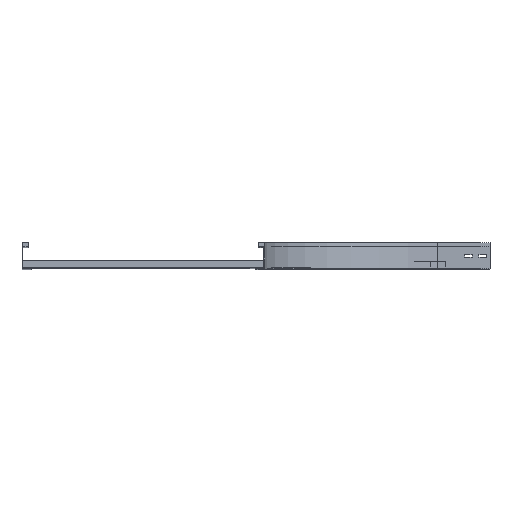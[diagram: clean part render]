
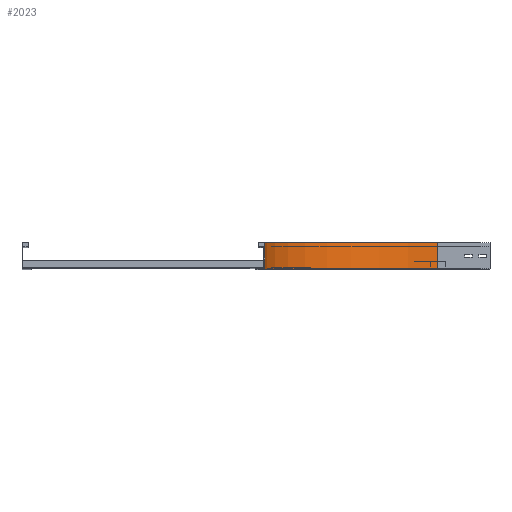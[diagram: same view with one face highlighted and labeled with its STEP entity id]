
A CAD part, top view. The second image highlights one B-rep face of the part: STEP entity #2023.
In plain terms, the highlighted cylindrical face has radius 500 mm (diameter 1000 mm), a partial arc.
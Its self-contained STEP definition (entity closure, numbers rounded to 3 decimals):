
#1 = CYLINDRICAL_SURFACE ( 'NONE', #1077, 500. ) ;
#14 = VERTEX_POINT ( 'NONE', #3169 ) ;
#17 = CARTESIAN_POINT ( 'NONE',  ( 0., 75., -150. ) ) ;
#170 = CIRCLE ( 'NONE', #3558, 500. ) ;
#472 = EDGE_CURVE ( 'NONE', #1035, #1938, #170, .T. ) ;
#556 = DIRECTION ( 'NONE',  ( 0., 1., 0. ) ) ;
#563 = ORIENTED_EDGE ( 'NONE', *, *, #472, .F. ) ;
#604 = LINE ( 'NONE', #1912, #3392 ) ;
#779 = VECTOR ( 'NONE', #556, 1000. ) ;
#835 = DIRECTION ( 'NONE',  ( -1., 0., 0. ) ) ;
#953 = CARTESIAN_POINT ( 'NONE',  ( 0., 0., -150. ) ) ;
#1017 = CIRCLE ( 'NONE', #1626, 500. ) ;
#1035 = VERTEX_POINT ( 'NONE', #17 ) ;
#1077 = AXIS2_PLACEMENT_3D ( 'NONE', #2928, #2332, #1582 ) ;
#1320 = EDGE_CURVE ( 'NONE', #1568, #1035, #3507, .T. ) ;
#1326 = EDGE_CURVE ( 'NONE', #14, #1938, #604, .T. ) ;
#1419 = ORIENTED_EDGE ( 'NONE', *, *, #1320, .F. ) ;
#1473 = DIRECTION ( 'NONE',  ( 0., -1., 0. ) ) ;
#1568 = VERTEX_POINT ( 'NONE', #1587 ) ;
#1582 = DIRECTION ( 'NONE',  ( 0., 0., -1. ) ) ;
#1587 = CARTESIAN_POINT ( 'NONE',  ( 0., 0., -150. ) ) ;
#1626 = AXIS2_PLACEMENT_3D ( 'NONE', #3713, #1473, #1855 ) ;
#1834 = CARTESIAN_POINT ( 'NONE',  ( 500., 75., -650. ) ) ;
#1855 = DIRECTION ( 'NONE',  ( -1., 0., 0. ) ) ;
#1912 = CARTESIAN_POINT ( 'NONE',  ( 500., 0., -650. ) ) ;
#1938 = VERTEX_POINT ( 'NONE', #1834 ) ;
#2023 = ADVANCED_FACE ( 'NONE', ( #2237 ), #1, .F. ) ;
#2220 = CARTESIAN_POINT ( 'NONE',  ( 500., 75., -150. ) ) ;
#2237 = FACE_OUTER_BOUND ( 'NONE', #3964, .T. ) ;
#2275 = ORIENTED_EDGE ( 'NONE', *, *, #1326, .T. ) ;
#2332 = DIRECTION ( 'NONE',  ( 0., -1., 0. ) ) ;
#2928 = CARTESIAN_POINT ( 'NONE',  ( 500., 0., -150. ) ) ;
#3102 = EDGE_CURVE ( 'NONE', #1568, #14, #1017, .T. ) ;
#3169 = CARTESIAN_POINT ( 'NONE',  ( 500., 0., -650. ) ) ;
#3236 = DIRECTION ( 'NONE',  ( 0., 1., 0. ) ) ;
#3392 = VECTOR ( 'NONE', #3236, 1000. ) ;
#3507 = LINE ( 'NONE', #953, #779 ) ;
#3524 = DIRECTION ( 'NONE',  ( 0., -1., 0. ) ) ;
#3558 = AXIS2_PLACEMENT_3D ( 'NONE', #2220, #3524, #835 ) ;
#3713 = CARTESIAN_POINT ( 'NONE',  ( 500., 0., -150. ) ) ;
#3964 = EDGE_LOOP ( 'NONE', ( #563, #1419, #4147, #2275 ) ) ;
#4147 = ORIENTED_EDGE ( 'NONE', *, *, #3102, .T. ) ;
